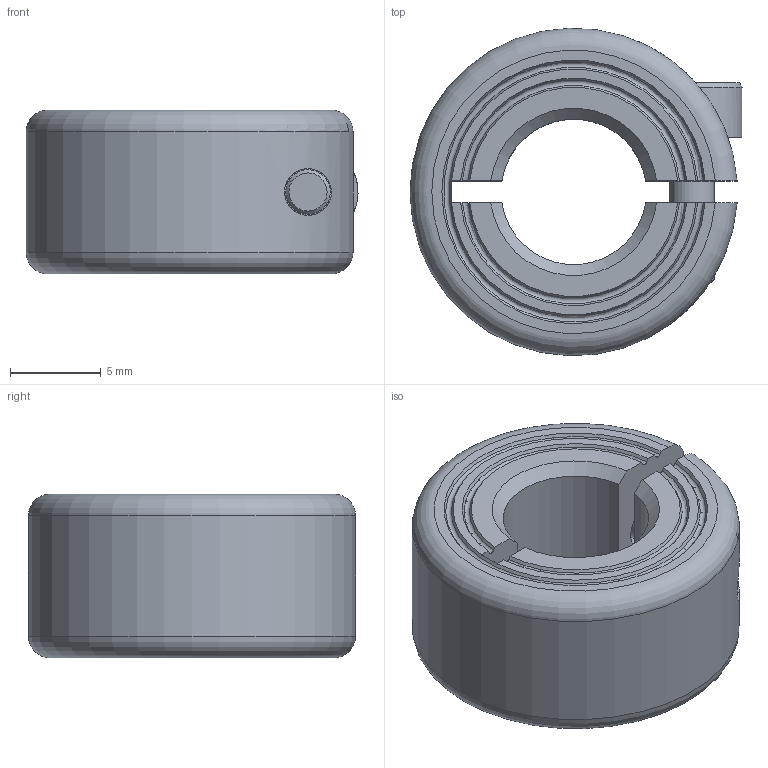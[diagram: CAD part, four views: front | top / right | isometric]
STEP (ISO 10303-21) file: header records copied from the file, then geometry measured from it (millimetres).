
FILE_DESCRIPTION((''),'2;1');
FILE_NAME('MCL-8-F','2016-09-08T',('SYSTEM'),(''),'PRO/ENGINEER BY PARAMETRIC TECHNOLOGY CORPORATION, 2015110','PRO/ENGINEER BY PARAMETRIC TECHNOLOGY CORPORATION, 2015110','');
FILE_SCHEMA(('AUTOMOTIVE_DESIGN { 1 0 10303 214 1 1 1 1 }'));
Length unit declared in the file: inch
Products named in the file (1): MCL-8-F
Bounding box: 18.25 x 17.99 x 9 mm (x, y, z)
Volume: 1677.1 mm3; surface area: 1408.7 mm2
Topology: 1 solids, 1 shells, 53 faces, 138 edges, 91 vertices
Faces by surface type: plane 22, cone 14, cylinder 12, torus 5
Entity records: 2235 total; most frequent: CARTESIAN_POINT 510, ORIENTED_EDGE 276, DIRECTION 259, EDGE_CURVE 138, AXIS2_PLACEMENT_3D 101, VERTEX_POINT 91, EDGE_LOOP 59, VECTOR 57
